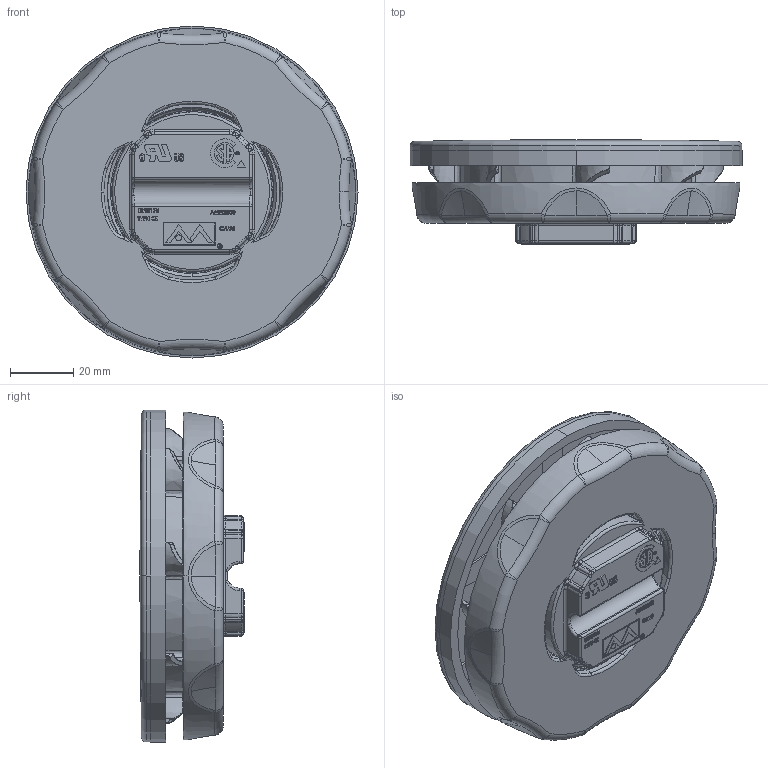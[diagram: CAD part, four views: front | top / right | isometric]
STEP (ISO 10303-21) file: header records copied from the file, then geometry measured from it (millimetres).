
FILE_DESCRIPTION (( 'STEP AP203' ), '1' );
FILE_NAME ('HP300PCLG.step', '2014-09-30T12:04:28', ( '' ), ( '' ), 'SwSTEP 2.0', 'SolidWorks 2014', '' );
FILE_SCHEMA (( 'CONFIG_CONTROL_DESIGN' ));
Length unit declared in the file: inch
Products named in the file (5): WHS300PLG; 70-GSKTHS300; WHS300NUT; AMHS300; HP300PCLG
Assembly tree (4 placements, depth 3):
  HP300PCLG
    AMHS300
      WHS300PLG
      70-GSKTHS300
      WHS300NUT
Bounding box: 104.65 x 32.94 x 104.65 mm (x, y, z)
Volume: 90273.7 mm3; surface area: 64206.5 mm2
Topology: 3 solids, 3 shells, 1644 faces, 4099 edges, 2393 vertices
Faces by surface type: bspline 572, plane 489, torus 212, sphere 154, cylinder 129, cone 88
Entity records: 76010 total; most frequent: CARTESIAN_POINT 41369, ORIENTED_EDGE 7942, DIRECTION 5981, EDGE_CURVE 3971, VERTEX_POINT 2393, AXIS2_PLACEMENT_3D 2326, EDGE_LOOP 1714, ADVANCED_FACE 1644
